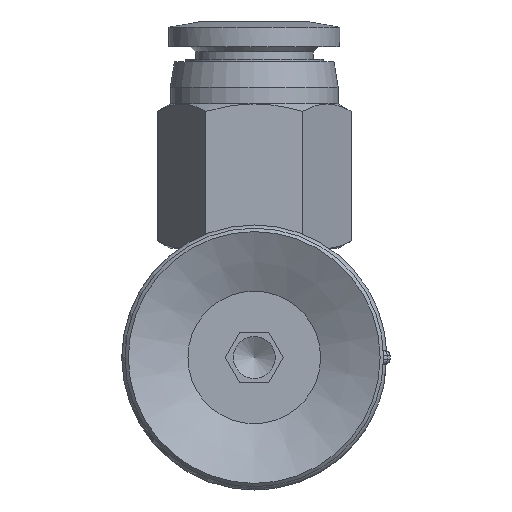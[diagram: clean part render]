
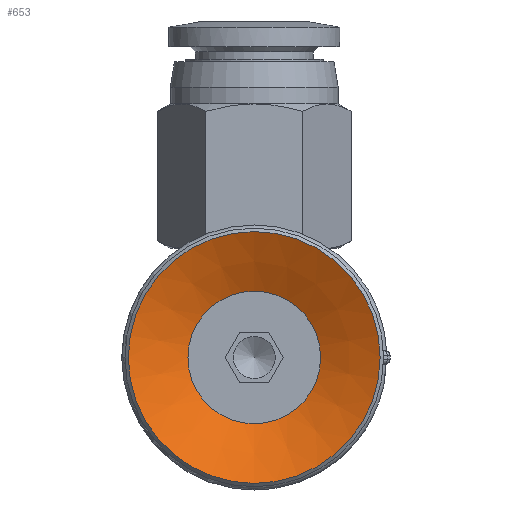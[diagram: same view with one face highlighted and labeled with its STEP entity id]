
A CAD part, front view. The second image highlights one B-rep face of the part: STEP entity #653.
In plain terms, the highlighted conical face has half-angle 64 degrees and reference radius 3.95 mm.
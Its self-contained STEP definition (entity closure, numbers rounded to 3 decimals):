
#653=ADVANCED_FACE('',(#1040,#1041),#1042,.F.);
#1040=FACE_BOUND('',#1610,.T.);
#1041=FACE_OUTER_BOUND('',#1611,.T.);
#1042=CONICAL_SURFACE('',#1612,3.95,1.117);
#1610=EDGE_LOOP('',(#2883));
#1611=EDGE_LOOP('',(#2884));
#1612=AXIS2_PLACEMENT_3D('',#2885,#2886,#2887);
#2883=ORIENTED_EDGE('',*,*,#3453,.F.);
#2884=ORIENTED_EDGE('',*,*,#3449,.T.);
#2885=CARTESIAN_POINT('',(0.0,-29.404,-47.168));
#2886=DIRECTION('',(-0.0,0.,1.0));
#2887=DIRECTION('',(0.0,-1.0,0.));
#3449=EDGE_CURVE('',#3972,#3972,#3973,.T.);
#3453=EDGE_CURVE('',#3980,#3980,#3981,.T.);
#3972=VERTEX_POINT('',#5192);
#3973=CIRCLE('',#5193,7.5);
#3980=VERTEX_POINT('',#5200);
#3981=CIRCLE('',#5201,3.95);
#5192=CARTESIAN_POINT('',(0.0,-36.904,-45.437));
#5193=AXIS2_PLACEMENT_3D('',#6059,#6060,#6061);
#5200=CARTESIAN_POINT('',(0.0,-33.354,-47.168));
#5201=AXIS2_PLACEMENT_3D('',#6071,#6072,#6073);
#6059=CARTESIAN_POINT('',(0.0,-29.404,-45.437));
#6060=DIRECTION('',(0.0,0.,1.0));
#6061=DIRECTION('',(0.0,-1.0,0.));
#6071=CARTESIAN_POINT('',(0.0,-29.404,-47.168));
#6072=DIRECTION('',(0.0,0.,1.0));
#6073=DIRECTION('',(0.0,-1.0,0.));
